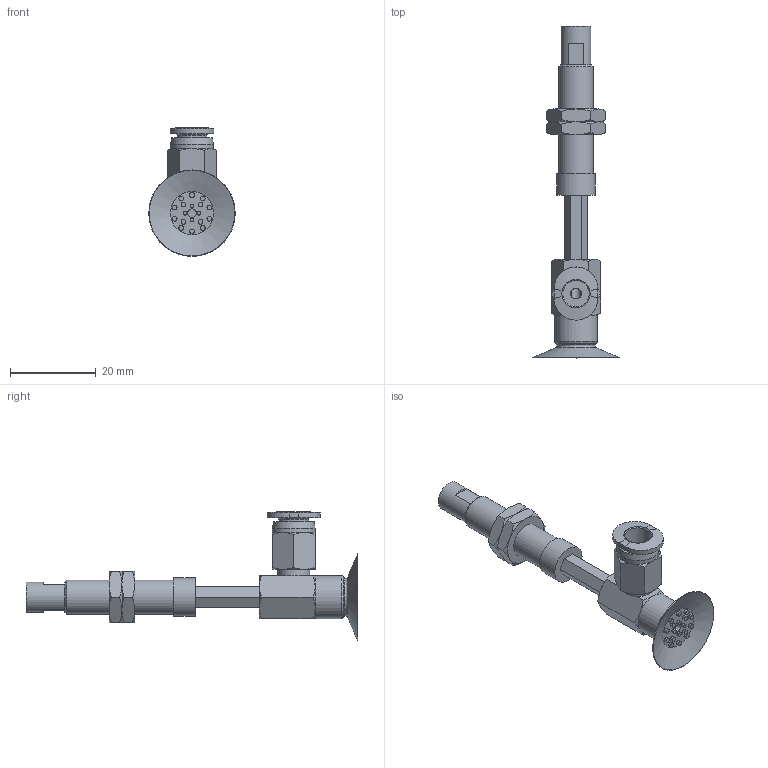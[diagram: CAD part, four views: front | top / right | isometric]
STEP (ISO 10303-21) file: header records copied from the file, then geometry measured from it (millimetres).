
FILE_DESCRIPTION(('STEP AP203'),'1');
FILE_NAME('-O.stp','2025-03-13T03:26:05',(' '),(' '),'Spatial InterOp 3D',' ',' ');
FILE_SCHEMA(('CONFIG_CONTROL_DESIGN'));
Length unit declared in the file: millimetre
Products named in the file (7): BNABPAYH-20A-15-※-O; NAPATH-20A-15--M; NAPATH-20A-15--F; Nut-10A-S; CONNECTOR-20A-15-PA; PC-C_06-M5; BPAG-20A-※
Assembly tree (7 placements, depth 2):
  BNABPAYH-20A-15-※-O
    NAPATH-20A-15--M
    NAPATH-20A-15--F
    Nut-10A-S  x2
    CONNECTOR-20A-15-PA
    PC-C_06-M5
    BPAG-20A-※
Bounding box: 20.19 x 77.5 x 30.07 mm (x, y, z)
Volume: 5067.4 mm3; surface area: 6531.1 mm2
Topology: 7 solids, 7 shells, 226 faces, 455 edges, 279 vertices
Faces by surface type: plane 98, cone 67, cylinder 42, torus 12, bspline 4, revolution 3
Full cylindrical faces by diameter (mm): 0.9 x4, 1.1 x14, 2 x2, 4 x4, 4.134 x2, 5 x2, 6 x2, 7 x2, 7.188 x2, 7.4 x1, 8 x1, 8.2 x1, 9 x1, 10 x2
Entity records: 5664 total; most frequent: CARTESIAN_POINT 1490, DIRECTION 801, ORIENTED_EDGE 658, AXIS2_PLACEMENT_3D 354, EDGE_CURVE 329, EDGE_LOOP 316, FACE_OUTER_BOUND 254, VERTEX_POINT 241
